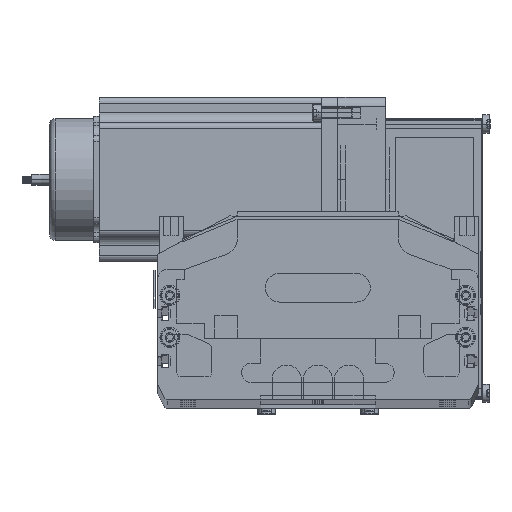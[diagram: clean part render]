
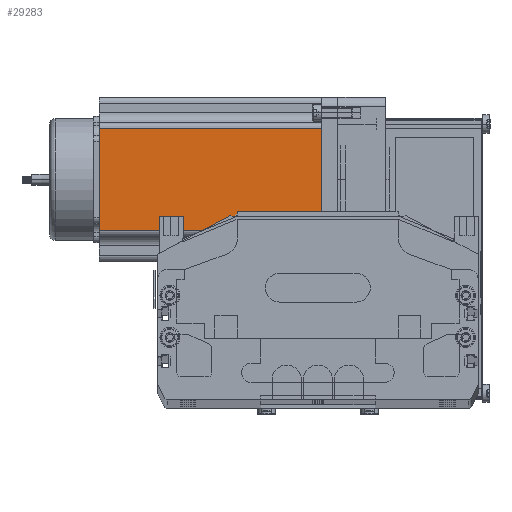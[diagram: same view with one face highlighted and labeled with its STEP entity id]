
A CAD part, top view. The second image highlights one B-rep face of the part: STEP entity #29283.
In plain terms, the highlighted planar face has unit normal (0, 0, 1) as drawn and (0, -1, 0) by its records, which use the part's own axes.
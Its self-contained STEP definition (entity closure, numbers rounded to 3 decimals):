
#5305 = CARTESIAN_POINT ( 'NONE',  ( 16.16, 0., 0. ) ) ;
#5544 = LINE ( 'NONE', #5598, #5597 ) ;
#5596 = DIRECTION ( 'NONE',  ( 1., 0., 0. ) ) ;
#5597 = VECTOR ( 'NONE', #5596, 1000. ) ;
#5598 = CARTESIAN_POINT ( 'NONE',  ( 0., 0., 0. ) ) ;
#6420 = DIRECTION ( 'NONE',  ( 0., 0., -1. ) ) ;
#6421 = VECTOR ( 'NONE', #6420, 1000. ) ;
#6423 = CARTESIAN_POINT ( 'NONE',  ( 16.16, 0., 116.5 ) ) ;
#6424 = LINE ( 'NONE', #6423, #6421 ) ;
#13749 = AXIS2_PLACEMENT_3D ( 'NONE', #13875, #13874, #13864 ) ;
#13864 = DIRECTION ( 'NONE',  ( 0., 0., 1. ) ) ;
#13873 = FACE_OUTER_BOUND ( 'NONE', #29692, .T. ) ;
#13874 = DIRECTION ( 'NONE',  ( 0., 1., 0. ) ) ;
#13875 = CARTESIAN_POINT ( 'NONE',  ( 0., 0., 116.5 ) ) ;
#13878 = PLANE ( 'NONE',  #13749 ) ;
#29283 = ADVANCED_FACE ( 'NONE', ( #13873 ), #13878, .F. ) ;
#29615 = ORIENTED_EDGE ( 'NONE', *, *, #29728, .T. ) ;
#29636 = VERTEX_POINT ( 'NONE', #5305 ) ;
#29692 = EDGE_LOOP ( 'NONE', ( #29615, #30395, #29803, #30203 ) ) ;
#29728 = EDGE_CURVE ( 'NONE', #29636, #31707, #5544, .T. ) ;
#29803 = ORIENTED_EDGE ( 'NONE', *, *, #30305, .F. ) ;
#29903 = VERTEX_POINT ( 'NONE', #87393 ) ;
#29915 = EDGE_CURVE ( 'NONE', #29903, #29636, #6424, .T. ) ;
#30203 = ORIENTED_EDGE ( 'NONE', *, *, #29915, .T. ) ;
#30305 = EDGE_CURVE ( 'NONE', #29903, #30306, #62879, .T. ) ;
#30306 = VERTEX_POINT ( 'NONE', #62878 ) ;
#30346 = EDGE_CURVE ( 'NONE', #31707, #30306, #63076, .T. ) ;
#30395 = ORIENTED_EDGE ( 'NONE', *, *, #30346, .T. ) ;
#31707 = VERTEX_POINT ( 'NONE', #70930 ) ;
#62872 = DIRECTION ( 'NONE',  ( 1., 0., 0. ) ) ;
#62873 = VECTOR ( 'NONE', #62872, 1000. ) ;
#62875 = CARTESIAN_POINT ( 'NONE',  ( 0., 0., 116.5 ) ) ;
#62878 = CARTESIAN_POINT ( 'NONE',  ( 69.74, 0., 116.5 ) ) ;
#62879 = LINE ( 'NONE', #62875, #62873 ) ;
#63076 = LINE ( 'NONE', #63177, #63176 ) ;
#63175 = DIRECTION ( 'NONE',  ( 0., 0., 1. ) ) ;
#63176 = VECTOR ( 'NONE', #63175, 1000. ) ;
#63177 = CARTESIAN_POINT ( 'NONE',  ( 69.74, 0., 116.5 ) ) ;
#70930 = CARTESIAN_POINT ( 'NONE',  ( 69.74, 0., 0. ) ) ;
#87393 = CARTESIAN_POINT ( 'NONE',  ( 16.16, 0., 116.5 ) ) ;
